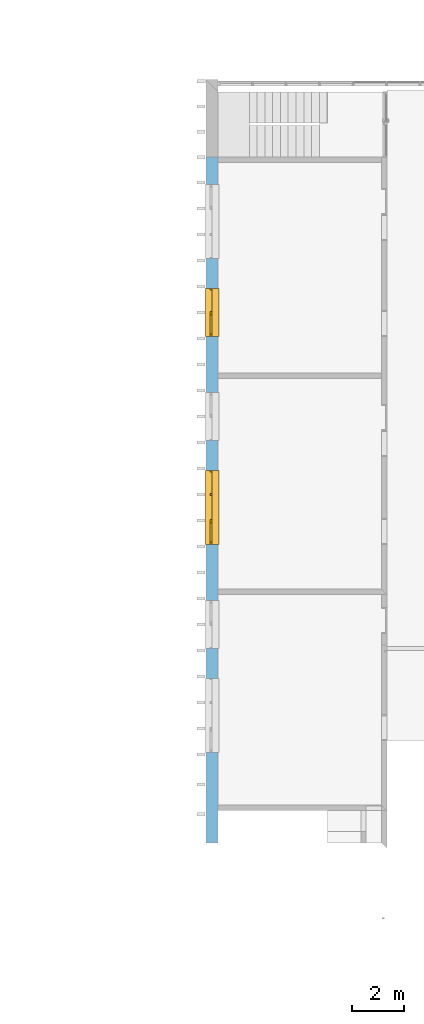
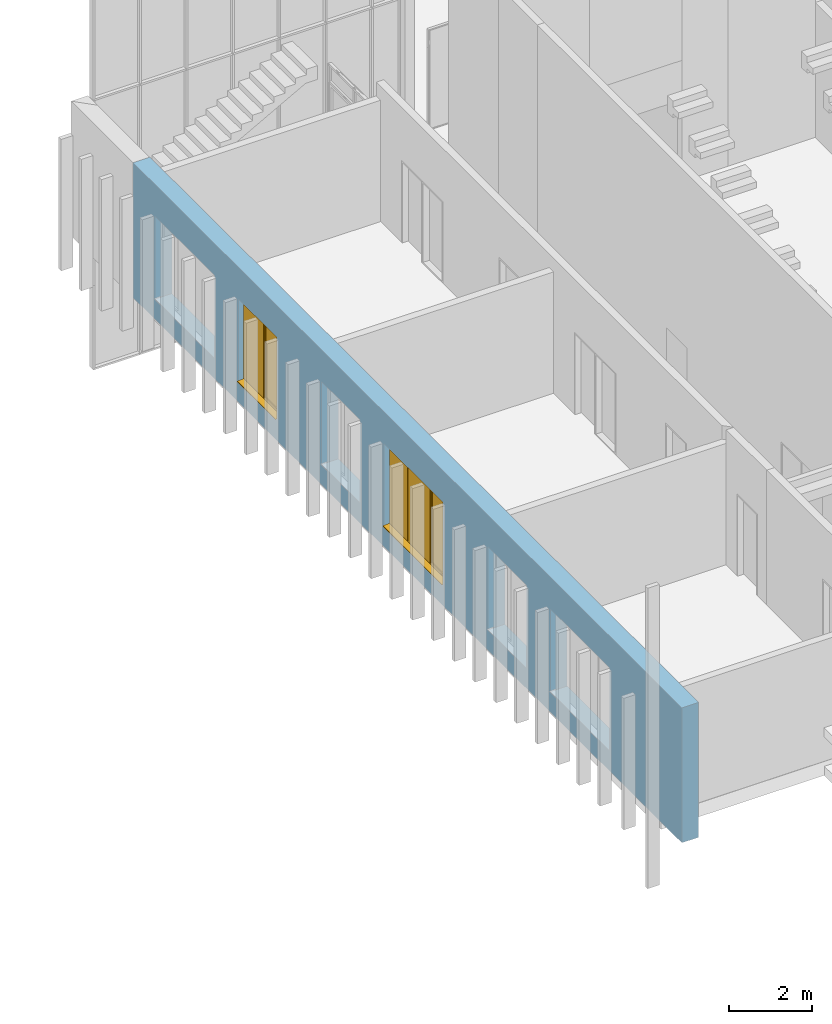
# One storey, part 34 of 62: 2 windows, 6 openings, plus 1 element that does not belong to this part.
"""IFC2X3 building model written with IfcOpenShell, lengths in millimetres."""

from ifc_helpers import new_model, entity, si_unit, converted_unit, derived_unit, money_unit, direction, frame, origin_with_axes, origin_2d_with_axis, place, context, subcontext, project, spatial, polyline, rectangle, outline, extrude, open_shell, faceted_brep, surface_model, material, layer, layer_set, layer_usage, type_object, element, fill, save


model = new_model("IFC2X3")

# Units and contexts
model_context = context("Model", 3, precision=0.01, world=origin_with_axes(), true_north=direction((0.0, 1.0)))
body_context = subcontext(model_context, "Body", "Model", "MODEL_VIEW")
ifc_project = project(units=[si_unit("LENGTHUNIT", "METRE", prefix="MILLI"), si_unit("AREAUNIT", "SQUARE_METRE"), si_unit("VOLUMEUNIT", "CUBIC_METRE"), converted_unit("PLANEANGLEUNIT", "DEGREE", entity("IfcPlaneAngleMeasure", 0.0174532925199), si_unit("PLANEANGLEUNIT", "RADIAN"), dimensions=[0, 0, 0, 0, 0, 0, 0]), si_unit("SOLIDANGLEUNIT", "STERADIAN"), money_unit("EUR"), converted_unit("TIMEUNIT", "Year", entity("IfcTimeMeasure", 31556926.0), si_unit("TIMEUNIT", "SECOND"), dimensions=[0, 0, 1, 0, 0, 0, 0]), si_unit("MASSUNIT", "GRAM", prefix="KILO"), si_unit("THERMODYNAMICTEMPERATUREUNIT", "DEGREE_CELSIUS"), si_unit("LUMINOUSINTENSITYUNIT", "LUMEN"), si_unit("ENERGYUNIT", "JOULE", prefix="MEGA"), derived_unit("THERMALCONDUCTANCEUNIT", [(si_unit("POWERUNIT", "WATT"), 1), (si_unit("LENGTHUNIT", "METRE"), -1), (si_unit("THERMODYNAMICTEMPERATUREUNIT", "KELVIN"), -1)]), derived_unit("SPECIFICHEATCAPACITYUNIT", [(si_unit("ENERGYUNIT", "JOULE"), 1), (si_unit("MASSUNIT", "GRAM", prefix="KILO"), -1), (si_unit("THERMODYNAMICTEMPERATUREUNIT", "KELVIN"), -1)]), derived_unit("MASSDENSITYUNIT", [(si_unit("MASSUNIT", "GRAM", prefix="KILO"), 1), (si_unit("VOLUMEUNIT", "CUBIC_METRE"), -1)])], contexts=[model_context])

# Site, building, storey
site_placement = place(None, origin_with_axes())
site = spatial("IfcSite", under=ifc_project, at=site_placement, Name="Puškini 31, Narva", CompositionType="ELEMENT")
building_placement = place(site_placement, origin_with_axes())
building = spatial("IfcBuilding", under=site, at=building_placement, Name="Narva Riigigümnaasium", CompositionType="ELEMENT")
storey_placement = place(building_placement, frame((0.0, 0.0, 660.0), z_axis=(0.0, 0.0, 1.0), x_axis=(1.0, 0.0, 0.0)))
storey = spatial("IfcBuildingStorey", under=building, at=storey_placement, Name="2.korrus +0.66", CompositionType="ELEMENT", Elevation=660.0)

# Wall, openings, windows
ifc_material_1 = material(Name="fassaadiplaat")
ifc_layer_1 = layer(ifc_material_1, 8.0, ventilated="UNKNOWN")
ifc_material_2 = material(Name="Salto-roovitus")
ifc_layer_2 = layer(ifc_material_2, 50.0, ventilated="UNKNOWN")
ifc_material_3 = material(Name="Salto-PIR soojustus")
ifc_layer_3 = layer(ifc_material_3, 50.0, ventilated="UNKNOWN")
ifc_layer_4 = layer(ifc_material_3, 150.0, ventilated="UNKNOWN")
ifc_material_4 = material(Name="Betoon element")
ifc_layer_5 = layer(ifc_material_4, 200.0, ventilated="UNKNOWN")
ifc_material_5 = material(Name="Salto-siseviimistlus-seinad")
ifc_layer_6 = layer(ifc_material_5, 10.0, ventilated="UNKNOWN")
ifc_layer_set = layer_set([ifc_layer_1, ifc_layer_2, ifc_layer_3, ifc_layer_4, ifc_layer_5, ifc_layer_6], Name="G-VS-01")
ifc_layer_usage = layer_usage(ifc_layer_set, "AXIS2", "NEGATIVE", 458.0)
wall_type = type_object("IfcWallType", Name="G-VS-01 468", PredefinedType="NOTDEFINED")
wall_placement = place(storey_placement, frame((28400.0401775, 194899.999976, 0.0), z_axis=(0.0, 0.0, 1.0), x_axis=(0.0, 1.0, 0.0)))
wall = element("IfcWallStandardCase", 1, at=wall_placement, inside=storey, type_object=wall_type, material=ifc_layer_usage, Name="Välissein", context=body_context, shape_type="SweptSolid", body=[
    extrude(outline(polyline([(2.37781989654e-05, -10.0), (26380.0000226, -10.0), (26380.0000226, 458.0), (2.37781989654e-05, 458.0), (2.37781989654e-05, -10.0)])), origin_with_axes(), (0.0, 0.0, 1.0), 3960.0),
])
opening_1_placement = place(wall_placement, frame((23900.0000267, 0.0, 600.0), z_axis=(0.0, 0.0, 1.0), x_axis=(1.0, 0.0, 0.0)))
element("IfcOpeningElement", 2, at=opening_1_placement, cuts=wall, Name="G-A-38", context=body_context, shape_type="SweptSolid", body=[
    extrude(rectangle(XDim=2849.99999873, YDim=2430.0, at=origin_2d_with_axis()), frame((0.0, 308.0, 1215.0), z_axis=(0.0, 1.0, 0.0), x_axis=(-1.0, 0.0, 0.0)), (0.0, 0.0, -1.0), 786.0),
    extrude(rectangle(XDim=2849.99999873, YDim=2430.0, at=origin_2d_with_axis()), frame((0.0, 308.0, 1215.0), z_axis=(0.0, -1.0, 0.0), x_axis=(-1.0, 0.0, 0.0)), (0.0, 0.0, -1.0), 618.0),
])
opening_2_placement = place(wall_placement, frame((16400.00003, 0.0, 600.0), z_axis=(0.0, 0.0, 1.0), x_axis=(1.0, 0.0, 0.0)))
element("IfcOpeningElement", 3, at=opening_2_placement, cuts=wall, Name="G-A-36", context=body_context, shape_type="SweptSolid", body=[
    extrude(rectangle(XDim=1849.99999918, YDim=2430.0, at=origin_2d_with_axis()), frame((0.0, 308.0, 1215.0), z_axis=(0.0, 1.0, 0.0), x_axis=(-1.0, 0.0, 0.0)), (0.0, 0.0, -1.0), 786.0),
    extrude(rectangle(XDim=1849.99999918, YDim=2430.0, at=origin_2d_with_axis()), frame((0.0, 308.0, 1215.0), z_axis=(0.0, -1.0, 0.0), x_axis=(-1.0, 0.0, 0.0)), (0.0, 0.0, -1.0), 618.0),
])
opening_3_placement = place(wall_placement, frame((8400.005406, 0.0, 600.0), z_axis=(0.0, 0.0, 1.0), x_axis=(1.0, 0.0, 0.0)))
element("IfcOpeningElement", 4, at=opening_3_placement, cuts=wall, Name="G-A-36", context=body_context, shape_type="SweptSolid", body=[
    extrude(rectangle(XDim=1850.0, YDim=2430.0, at=origin_2d_with_axis()), frame((0.0, 308.0, 1215.0), z_axis=(0.0, 1.0, 0.0), x_axis=(-1.0, 0.0, 0.0)), (0.0, 0.0, -1.0), 786.0),
    extrude(rectangle(XDim=1850.0, YDim=2430.0, at=origin_2d_with_axis()), frame((0.0, 308.0, 1215.0), z_axis=(0.0, -1.0, 0.0), x_axis=(-1.0, 0.0, 0.0)), (0.0, 0.0, -1.0), 618.0),
])
opening_4_placement = place(wall_placement, frame((20400.0000282, 0.0, 600.0), z_axis=(0.0, 0.0, 1.0), x_axis=(1.0, 0.0, 0.0)))
opening_4 = element("IfcOpeningElement", 5, at=opening_4_placement, cuts=wall, Name="G-A-36", context=body_context, shape_type="SweptSolid", body=[
    extrude(rectangle(XDim=1849.99999918, YDim=2430.0, at=origin_2d_with_axis()), frame((0.0, 308.0, 1215.0), z_axis=(0.0, -1.0, 0.0), x_axis=(1.0, 0.0, 0.0)), (0.0, 0.0, 1.0), 786.0),
    extrude(rectangle(XDim=1849.99999918, YDim=2430.0, at=origin_2d_with_axis()), frame((0.0, 308.0, 1215.0), z_axis=(0.0, 1.0, 0.0), x_axis=(1.0, 0.0, 0.0)), (0.0, 0.0, 1.0), 618.0),
])
opening_5_placement = place(wall_placement, frame((12900.0000316, 0.0, 600.0), z_axis=(0.0, 0.0, 1.0), x_axis=(1.0, 0.0, 0.0)))
opening_5 = element("IfcOpeningElement", 6, at=opening_5_placement, cuts=wall, Name="G-A-38", context=body_context, shape_type="SweptSolid", body=[
    extrude(rectangle(XDim=2849.99999873, YDim=2430.0, at=origin_2d_with_axis()), frame((0.0, 308.0, 1215.0), z_axis=(0.0, -1.0, 0.0), x_axis=(1.0, 0.0, 0.0)), (0.0, 0.0, 1.0), 786.0),
    extrude(rectangle(XDim=2849.99999873, YDim=2430.0, at=origin_2d_with_axis()), frame((0.0, 308.0, 1215.0), z_axis=(0.0, 1.0, 0.0), x_axis=(1.0, 0.0, 0.0)), (0.0, 0.0, 1.0), 618.0),
])
opening_6_placement = place(wall_placement, frame((4900.00003512, 0.0, 600.0), z_axis=(0.0, 0.0, 1.0), x_axis=(1.0, 0.0, 0.0)))
element("IfcOpeningElement", 7, at=opening_6_placement, cuts=wall, Name="G-A-38", context=body_context, shape_type="SweptSolid", body=[
    extrude(rectangle(XDim=2849.99999873, YDim=2430.0, at=origin_2d_with_axis()), frame((0.0, 308.0, 1215.0), z_axis=(0.0, -1.0, 0.0), x_axis=(1.0, 0.0, 0.0)), (0.0, 0.0, 1.0), 786.0),
    extrude(rectangle(XDim=2849.99999873, YDim=2430.0, at=origin_2d_with_axis()), frame((0.0, 308.0, 1215.0), z_axis=(0.0, 1.0, 0.0), x_axis=(1.0, 0.0, 0.0)), (0.0, 0.0, 1.0), 618.0),
])
window_style_1 = type_object("IfcWindowStyle", Name="Horizontal Multi-Sash Window 23", ConstructionType="NOTDEFINED", OperationType="DOUBLE_PANEL_VERTICAL", ParameterTakesPrecedence=False, Sizeable=False)
window_1_placement = place(opening_4_placement, frame((924.999999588, 0.0, 0.0), z_axis=(0.0, 0.0, 1.0), x_axis=(-1.0, 0.0, 0.0)))
window_1 = element("IfcWindow", 8, at=window_1_placement, inside=storey, type_object=window_style_1, Name="G-A-36", ObjectType="WINDOW", OverallHeight=2430.0, OverallWidth=1850.0, context=body_context, shape_type="SurfaceModel", body=[
    surface_model("IfcShellBasedSurfaceModel", [(1849.99999918, -309.0, 50.0), (0.0, -309.0, 50.0), (0.0, -309.0, 40.0), (1849.99999918, -309.0, 40.0), (0.0, -488.0, 28.0), (1849.99999918, -488.0, 28.0), (0.0, -488.0, 8.0), (1849.99999918, -488.0, 8.0), (0.0, -478.0, 18.0), (1849.99999918, -478.0, 18.0)], [open_shell([[[0, 1, 2, 3]], [[3, 2, 4, 5]], [[5, 4, 6, 7]], [[7, 6, 8, 9]]])]),
    faceted_brep([(0.0, -233.0, 0.0), (0.0, -233.0, 25.0), (0.0, 10.0, 25.0), (0.0, 10.0, 0.0), (1849.99999918, -233.0, 0.0), (1849.99999918, -233.0, 25.0), (1849.99999918, 10.0, 25.0), (1849.99999918, 40.0, 25.0), (0.0, 40.0, 25.0), (0.0, 40.0, 0.0), (1849.99999918, 40.0, 0.0), (1849.99999918, 10.0, 0.0)], [[[0, 1, 2, 3]], [[4, 5, 1, 0]], [[1, 5, 6, 7, 8, 2]], [[3, 2, 8, 9]], [[0, 3, 9, 10, 11, 4]], [[11, 6, 5, 4]], [[10, 7, 6, 11]], [[9, 8, 7, 10]]]),
    faceted_brep([(1809.99999918, -233.0, 2380.0), (1809.99999918, -303.0, 2380.0), (1799.99999918, -303.0, 2380.0), (1799.99999918, -308.0, 2380.0), (1849.99999918, -308.0, 2380.0), (1849.99999918, -233.0, 2380.0), (1809.99999918, -233.0, 50.0), (1809.99999918, -303.0, 50.0), (1799.99999918, -303.0, 50.0), (1799.99999918, -308.0, 50.0), (1849.99999918, -308.0, 50.0), (1849.99999918, -233.0, 50.0)], [[[0, 1, 2, 3, 4, 5]], [[1, 0, 6, 7]], [[8, 2, 1, 7]], [[2, 8, 9, 3]], [[4, 3, 9, 10]], [[5, 4, 10, 11]], [[6, 0, 5, 11]], [[7, 6, 11, 10, 9, 8]]]),
    faceted_brep([(1809.99999918, -233.0, 2380.0), (1809.99999918, -233.0, 2390.0), (952.499999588, -233.0, 2390.0), (952.499999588, -233.0, 2380.0), (887.499999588, -233.0, 2380.0), (50.0, -233.0, 2380.0), (0.0, -233.0, 2380.0), (0.0, -233.0, 2430.0), (1849.99999918, -233.0, 2430.0), (1849.99999918, -233.0, 2380.0), (1809.99999918, -303.0, 2380.0), (1809.99999918, -303.0, 2390.0), (952.499999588, -303.0, 2390.0), (952.499999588, -303.0, 2380.0), (962.499999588, -303.0, 2380.0), (962.499999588, -308.0, 2380.0), (887.499999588, -308.0, 2380.0), (50.0, -308.0, 2380.0), (0.0, -308.0, 2380.0), (0.0, -308.0, 2430.0), (1849.99999918, -308.0, 2430.0), (1849.99999918, -308.0, 2380.0), (1799.99999918, -308.0, 2380.0), (1799.99999918, -303.0, 2380.0)], [[[0, 1, 2, 3, 4, 5, 6, 7, 8, 9]], [[1, 0, 10, 11]], [[2, 1, 11, 12]], [[3, 2, 12, 13]], [[13, 14, 15, 16, 4, 3]], [[4, 16, 17, 5]], [[5, 17, 18, 6]], [[6, 18, 19, 7]], [[7, 19, 20, 8]], [[8, 20, 21, 9]], [[10, 0, 9, 21, 22, 23]], [[14, 13, 12, 11, 10, 23]], [[14, 23, 22, 15]], [[18, 17, 16, 15, 22, 21, 20, 19]]]),
    faceted_brep([(962.499999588, -303.0, 50.0), (952.499999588, -303.0, 50.0), (952.499999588, -233.0, 50.0), (887.499999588, -233.0, 50.0), (887.499999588, -308.0, 50.0), (962.499999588, -308.0, 50.0), (1799.99999918, -303.0, 50.0), (1809.99999918, -303.0, 50.0), (1809.99999918, -303.0, 40.0), (952.499999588, -303.0, 40.0), (952.499999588, -233.0, 40.0), (1809.99999918, -233.0, 40.0), (1809.99999918, -233.0, 50.0), (1849.99999918, -233.0, 50.0), (1849.99999918, -233.0, 0.0), (0.0, -233.0, 0.0), (0.0, -233.0, 50.0), (50.0, -233.0, 50.0), (50.0, -308.0, 50.0), (0.0, -308.0, 50.0), (0.0, -308.0, 0.0), (1849.99999918, -308.0, 0.0), (1849.99999918, -308.0, 50.0), (1799.99999918, -308.0, 50.0)], [[[0, 1, 2, 3, 4, 5]], [[1, 0, 6, 7, 8, 9]], [[10, 2, 1, 9]], [[11, 12, 13, 14, 15, 16, 17, 3, 2, 10]], [[17, 18, 4, 3]], [[5, 4, 18, 19, 20, 21, 22, 23]], [[6, 0, 5, 23]], [[7, 6, 23, 22, 13, 12]], [[7, 12, 11, 8]], [[11, 10, 9, 8]], [[13, 22, 21, 14]], [[14, 21, 20, 15]], [[15, 20, 19, 16]], [[16, 19, 18, 17]]]),
    faceted_brep([(962.499999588, -303.0, 2380.0), (952.499999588, -303.0, 2380.0), (952.499999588, -233.0, 2380.0), (887.499999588, -233.0, 2380.0), (887.499999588, -308.0, 2380.0), (962.499999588, -308.0, 2380.0), (962.499999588, -303.0, 50.0), (952.499999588, -303.0, 50.0), (952.499999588, -233.0, 50.0), (887.499999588, -233.0, 50.0), (887.499999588, -308.0, 50.0), (962.499999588, -308.0, 50.0)], [[[0, 1, 2, 3, 4, 5]], [[1, 0, 6, 7]], [[8, 2, 1, 7]], [[2, 8, 9, 3]], [[9, 10, 4, 3]], [[4, 10, 11, 5]], [[6, 0, 5, 11]], [[7, 6, 11, 10, 9, 8]]]),
    faceted_brep([(50.0, -308.0, 50.0), (0.0, -308.0, 50.0), (0.0, -233.0, 50.0), (50.0, -233.0, 50.0), (50.0, -308.0, 2380.0), (0.0, -308.0, 2380.0), (0.0, -233.0, 2380.0), (50.0, -233.0, 2380.0)], [[[0, 1, 2, 3]], [[0, 4, 5, 1]], [[1, 5, 6, 2]], [[3, 2, 6, 7]], [[4, 0, 3, 7]], [[5, 4, 7, 6]]]),
    faceted_brep([(1749.99999918, -303.0, 2330.0), (1809.99999918, -303.0, 2330.0), (1809.99999918, -218.0, 2330.0), (1749.99999918, -218.0, 2330.0), (1749.99999918, -303.0, 100.0), (1809.99999918, -303.0, 100.0), (1809.99999918, -218.0, 100.0), (1749.99999918, -218.0, 100.0)], [[[0, 1, 2, 3]], [[0, 4, 5, 1]], [[1, 5, 6, 2]], [[3, 2, 6, 7]], [[4, 0, 3, 7]], [[5, 4, 7, 6]]]),
    faceted_brep([(1012.49999959, -303.0, 100.0), (952.499999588, -303.0, 100.0), (952.499999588, -218.0, 100.0), (1012.49999959, -218.0, 100.0), (1012.49999959, -303.0, 2330.0), (952.499999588, -303.0, 2330.0), (952.499999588, -218.0, 2330.0), (1012.49999959, -218.0, 2330.0)], [[[0, 1, 2, 3]], [[0, 4, 5, 1]], [[1, 5, 6, 2]], [[3, 2, 6, 7]], [[4, 0, 3, 7]], [[5, 4, 7, 6]]]),
    faceted_brep([(952.499999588, -303.0, 40.0), (952.499999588, -303.0, 100.0), (952.499999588, -218.0, 100.0), (952.499999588, -218.0, 40.0), (1809.99999918, -303.0, 40.0), (1809.99999918, -303.0, 100.0), (1749.99999918, -303.0, 100.0), (1012.49999959, -303.0, 100.0), (1012.49999959, -218.0, 100.0), (1749.99999918, -218.0, 100.0), (1809.99999918, -218.0, 100.0), (1809.99999918, -218.0, 40.0)], [[[0, 1, 2, 3]], [[0, 4, 5, 6, 7, 1]], [[1, 7, 8, 2]], [[3, 2, 8, 9, 10, 11]], [[4, 0, 3, 11]], [[5, 4, 11, 10]], [[6, 5, 10, 9]], [[7, 6, 9, 8]]]),
    faceted_brep([(1809.99999918, -303.0, 2390.0), (1809.99999918, -303.0, 2330.0), (1809.99999918, -218.0, 2330.0), (1809.99999918, -218.0, 2390.0), (952.499999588, -303.0, 2390.0), (952.499999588, -303.0, 2330.0), (1012.49999959, -303.0, 2330.0), (1749.99999918, -303.0, 2330.0), (1749.99999918, -218.0, 2330.0), (1012.49999959, -218.0, 2330.0), (952.499999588, -218.0, 2330.0), (952.499999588, -218.0, 2390.0)], [[[0, 1, 2, 3]], [[0, 4, 5, 6, 7, 1]], [[1, 7, 8, 2]], [[3, 2, 8, 9, 10, 11]], [[4, 0, 3, 11]], [[5, 4, 11, 10]], [[6, 5, 10, 9]], [[7, 6, 9, 8]]]),
    surface_model("IfcShellBasedSurfaceModel", [(1749.99999918, -270.5, 100.0), (1749.99999918, -270.5, 2330.0), (1012.49999959, -270.5, 2330.0), (1012.49999959, -270.5, 100.0)], [open_shell([[[0, 1, 2, 3]]])]),
    surface_model("IfcShellBasedSurfaceModel", [(1749.99999918, -250.5, 100.0), (1012.49999959, -250.5, 100.0), (1012.49999959, -250.5, 2330.0), (1749.99999918, -250.5, 2330.0)], [open_shell([[[0, 1, 2, 3]]])]),
    surface_model("IfcShellBasedSurfaceModel", [(887.499999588, -313.0, 50.0), (887.499999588, -313.0, 2380.0), (50.0, -313.0, 2380.0), (50.0, -313.0, 50.0)], [open_shell([[[0, 1, 2, 3]]])]),
    surface_model("IfcShellBasedSurfaceModel", [(887.499999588, -293.0, 50.0), (50.0, -293.0, 50.0), (50.0, -293.0, 2380.0), (887.499999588, -293.0, 2380.0)], [open_shell([[[0, 1, 2, 3]]])]),
])
fill(opening_4, window_1)
window_style_2 = type_object("IfcWindowStyle", Name="Horizontal Multi-Sash Window 23", ConstructionType="NOTDEFINED", OperationType="TRIPLE_PANEL_VERTICAL", ParameterTakesPrecedence=False, Sizeable=False)
window_2_placement = place(opening_5_placement, frame((1424.99999937, 0.0, 0.0), z_axis=(0.0, 0.0, 1.0), x_axis=(-1.0, 0.0, 0.0)))
window_2 = element("IfcWindow", 9, at=window_2_placement, inside=storey, type_object=window_style_2, Name="G-A-38", ObjectType="WINDOW", OverallHeight=2430.0, OverallWidth=2850.0, context=body_context, shape_type="SurfaceModel", body=[
    surface_model("IfcShellBasedSurfaceModel", [(2849.99999873, -309.0, 50.0), (0.0, -309.0, 50.0), (0.0, -309.0, 40.0), (2849.99999873, -309.0, 40.0), (0.0, -488.0, 28.0), (2849.99999873, -488.0, 28.0), (0.0, -488.0, 8.0), (2849.99999873, -488.0, 8.0), (0.0, -478.0, 18.0), (2849.99999873, -478.0, 18.0)], [open_shell([[[0, 1, 2, 3]], [[3, 2, 4, 5]], [[5, 4, 6, 7]], [[7, 6, 8, 9]]])]),
    faceted_brep([(0.0, -233.0, 0.0), (0.0, -233.0, 25.0), (0.0, 10.0, 25.0), (0.0, 10.0, 0.0), (2849.99999873, -233.0, 0.0), (2849.99999873, -233.0, 25.0), (2849.99999873, 10.0, 25.0), (2849.99999873, 40.0, 25.0), (0.0, 40.0, 25.0), (0.0, 40.0, 0.0), (2849.99999873, 40.0, 0.0), (2849.99999873, 10.0, 0.0)], [[[0, 1, 2, 3]], [[4, 5, 1, 0]], [[1, 5, 6, 7, 8, 2]], [[3, 2, 8, 9]], [[0, 3, 9, 10, 11, 4]], [[11, 6, 5, 4]], [[10, 7, 6, 11]], [[9, 8, 7, 10]]]),
    faceted_brep([(2809.99999873, -233.0, 2380.0), (2809.99999873, -303.0, 2380.0), (2799.99999873, -303.0, 2380.0), (2799.99999873, -308.0, 2380.0), (2849.99999873, -308.0, 2380.0), (2849.99999873, -233.0, 2380.0), (2809.99999873, -233.0, 50.0), (2809.99999873, -303.0, 50.0), (2799.99999873, -303.0, 50.0), (2799.99999873, -308.0, 50.0), (2849.99999873, -308.0, 50.0), (2849.99999873, -233.0, 50.0)], [[[0, 1, 2, 3, 4, 5]], [[1, 0, 6, 7]], [[8, 2, 1, 7]], [[2, 8, 9, 3]], [[4, 3, 9, 10]], [[5, 4, 10, 11]], [[6, 0, 5, 11]], [[7, 6, 11, 10, 9, 8]]]),
    faceted_brep([(2809.99999873, -233.0, 2380.0), (2809.99999873, -233.0, 2390.0), (1952.48985197, -233.0, 2390.0), (1952.48985197, -233.0, 2380.0), (1887.48985197, -233.0, 2380.0), (962.489852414, -233.0, 2380.0), (887.489852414, -233.0, 2380.0), (50.0, -233.0, 2380.0), (0.0, -233.0, 2380.0), (0.0, -233.0, 2430.0), (2849.99999873, -233.0, 2430.0), (2849.99999873, -233.0, 2380.0), (2809.99999873, -303.0, 2380.0), (2809.99999873, -303.0, 2390.0), (1952.48985197, -303.0, 2390.0), (1952.48985197, -303.0, 2380.0), (1962.48985197, -303.0, 2380.0), (1962.48985197, -308.0, 2380.0), (1887.48985197, -308.0, 2380.0), (962.489852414, -308.0, 2380.0), (887.489852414, -308.0, 2380.0), (50.0, -308.0, 2380.0), (0.0, -308.0, 2380.0), (0.0, -308.0, 2430.0), (2849.99999873, -308.0, 2430.0), (2849.99999873, -308.0, 2380.0), (2799.99999873, -308.0, 2380.0), (2799.99999873, -303.0, 2380.0)], [[[0, 1, 2, 3, 4, 5, 6, 7, 8, 9, 10, 11]], [[1, 0, 12, 13]], [[2, 1, 13, 14]], [[3, 2, 14, 15]], [[15, 16, 17, 18, 4, 3]], [[4, 18, 19, 5]], [[5, 19, 20, 6]], [[6, 20, 21, 7]], [[7, 21, 22, 8]], [[8, 22, 23, 9]], [[9, 23, 24, 10]], [[10, 24, 25, 11]], [[12, 0, 11, 25, 26, 27]], [[16, 15, 14, 13, 12, 27]], [[16, 27, 26, 17]], [[22, 21, 20, 19, 18, 17, 26, 25, 24, 23]]]),
    faceted_brep([(1962.48985197, -303.0, 50.0), (1952.48985197, -303.0, 50.0), (1952.48985197, -233.0, 50.0), (1887.48985197, -233.0, 50.0), (1887.48985197, -308.0, 50.0), (1962.48985197, -308.0, 50.0), (2799.99999873, -303.0, 50.0), (2809.99999873, -303.0, 50.0), (2809.99999873, -303.0, 40.0), (1952.48985197, -303.0, 40.0), (1952.48985197, -233.0, 40.0), (2809.99999873, -233.0, 40.0), (2809.99999873, -233.0, 50.0), (2849.99999873, -233.0, 50.0), (2849.99999873, -233.0, 0.0), (0.0, -233.0, 0.0), (0.0, -233.0, 50.0), (50.0, -233.0, 50.0), (887.489852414, -233.0, 50.0), (962.489852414, -233.0, 50.0), (962.489852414, -308.0, 50.0), (887.489852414, -308.0, 50.0), (50.0, -308.0, 50.0), (0.0, -308.0, 50.0), (0.0, -308.0, 0.0), (2849.99999873, -308.0, 0.0), (2849.99999873, -308.0, 50.0), (2799.99999873, -308.0, 50.0)], [[[0, 1, 2, 3, 4, 5]], [[1, 0, 6, 7, 8, 9]], [[10, 2, 1, 9]], [[11, 12, 13, 14, 15, 16, 17, 18, 19, 3, 2, 10]], [[19, 20, 4, 3]], [[20, 21, 22, 23, 24, 25, 26, 27, 5, 4]], [[6, 0, 5, 27]], [[7, 6, 27, 26, 13, 12]], [[7, 12, 11, 8]], [[11, 10, 9, 8]], [[13, 26, 25, 14]], [[14, 25, 24, 15]], [[15, 24, 23, 16]], [[16, 23, 22, 17]], [[17, 22, 21, 18]], [[18, 21, 20, 19]]]),
    faceted_brep([(1962.48985197, -303.0, 2380.0), (1952.48985197, -303.0, 2380.0), (1952.48985197, -233.0, 2380.0), (1887.48985197, -233.0, 2380.0), (1887.48985197, -308.0, 2380.0), (1962.48985197, -308.0, 2380.0), (1962.48985197, -303.0, 50.0), (1952.48985197, -303.0, 50.0), (1952.48985197, -233.0, 50.0), (1887.48985197, -233.0, 50.0), (1887.48985197, -308.0, 50.0), (1962.48985197, -308.0, 50.0)], [[[0, 1, 2, 3, 4, 5]], [[1, 0, 6, 7]], [[8, 2, 1, 7]], [[2, 8, 9, 3]], [[9, 10, 4, 3]], [[4, 10, 11, 5]], [[6, 0, 5, 11]], [[7, 6, 11, 10, 9, 8]]]),
    faceted_brep([(50.0, -308.0, 50.0), (0.0, -308.0, 50.0), (0.0, -233.0, 50.0), (50.0, -233.0, 50.0), (50.0, -308.0, 2380.0), (0.0, -308.0, 2380.0), (0.0, -233.0, 2380.0), (50.0, -233.0, 2380.0)], [[[0, 1, 2, 3]], [[0, 4, 5, 1]], [[1, 5, 6, 2]], [[3, 2, 6, 7]], [[4, 0, 3, 7]], [[5, 4, 7, 6]]]),
    faceted_brep([(887.489852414, -308.0, 50.0), (887.489852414, -308.0, 2380.0), (887.489852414, -233.0, 2380.0), (887.489852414, -233.0, 50.0), (962.489852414, -308.0, 50.0), (962.489852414, -308.0, 2380.0), (962.489852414, -233.0, 2380.0), (962.489852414, -233.0, 50.0)], [[[0, 1, 2, 3]], [[0, 4, 5, 1]], [[1, 5, 6, 2]], [[3, 2, 6, 7]], [[4, 0, 3, 7]], [[5, 4, 7, 6]]]),
    faceted_brep([(2749.99999873, -303.0, 2330.0), (2809.99999873, -303.0, 2330.0), (2809.99999873, -218.0, 2330.0), (2749.99999873, -218.0, 2330.0), (2749.99999873, -303.0, 100.0), (2809.99999873, -303.0, 100.0), (2809.99999873, -218.0, 100.0), (2749.99999873, -218.0, 100.0)], [[[0, 1, 2, 3]], [[0, 4, 5, 1]], [[1, 5, 6, 2]], [[3, 2, 6, 7]], [[4, 0, 3, 7]], [[5, 4, 7, 6]]]),
    faceted_brep([(2012.48985197, -303.0, 100.0), (1952.48985197, -303.0, 100.0), (1952.48985197, -218.0, 100.0), (2012.48985197, -218.0, 100.0), (2012.48985197, -303.0, 2330.0), (1952.48985197, -303.0, 2330.0), (1952.48985197, -218.0, 2330.0), (2012.48985197, -218.0, 2330.0)], [[[0, 1, 2, 3]], [[0, 4, 5, 1]], [[1, 5, 6, 2]], [[3, 2, 6, 7]], [[4, 0, 3, 7]], [[5, 4, 7, 6]]]),
    faceted_brep([(1952.48985197, -303.0, 40.0), (1952.48985197, -303.0, 100.0), (1952.48985197, -218.0, 100.0), (1952.48985197, -218.0, 40.0), (2809.99999873, -303.0, 40.0), (2809.99999873, -303.0, 100.0), (2749.99999873, -303.0, 100.0), (2012.48985197, -303.0, 100.0), (2012.48985197, -218.0, 100.0), (2749.99999873, -218.0, 100.0), (2809.99999873, -218.0, 100.0), (2809.99999873, -218.0, 40.0)], [[[0, 1, 2, 3]], [[0, 4, 5, 6, 7, 1]], [[1, 7, 8, 2]], [[3, 2, 8, 9, 10, 11]], [[4, 0, 3, 11]], [[5, 4, 11, 10]], [[6, 5, 10, 9]], [[7, 6, 9, 8]]]),
    faceted_brep([(2809.99999873, -303.0, 2390.0), (2809.99999873, -303.0, 2330.0), (2809.99999873, -218.0, 2330.0), (2809.99999873, -218.0, 2390.0), (1952.48985197, -303.0, 2390.0), (1952.48985197, -303.0, 2330.0), (2012.48985197, -303.0, 2330.0), (2749.99999873, -303.0, 2330.0), (2749.99999873, -218.0, 2330.0), (2012.48985197, -218.0, 2330.0), (1952.48985197, -218.0, 2330.0), (1952.48985197, -218.0, 2390.0)], [[[0, 1, 2, 3]], [[0, 4, 5, 6, 7, 1]], [[1, 7, 8, 2]], [[3, 2, 8, 9, 10, 11]], [[4, 0, 3, 11]], [[5, 4, 11, 10]], [[6, 5, 10, 9]], [[7, 6, 9, 8]]]),
    surface_model("IfcShellBasedSurfaceModel", [(2749.99999873, -270.5, 100.0), (2749.99999873, -270.5, 2330.0), (2012.48985197, -270.5, 2330.0), (2012.48985197, -270.5, 100.0)], [open_shell([[[0, 1, 2, 3]]])]),
    surface_model("IfcShellBasedSurfaceModel", [(2749.99999873, -250.5, 100.0), (2012.48985197, -250.5, 100.0), (2012.48985197, -250.5, 2330.0), (2749.99999873, -250.5, 2330.0)], [open_shell([[[0, 1, 2, 3]]])]),
    surface_model("IfcShellBasedSurfaceModel", [(1887.48985197, -313.0, 50.0), (1887.48985197, -313.0, 2380.0), (962.489852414, -313.0, 2380.0), (962.489852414, -313.0, 50.0)], [open_shell([[[0, 1, 2, 3]]])]),
    surface_model("IfcShellBasedSurfaceModel", [(1887.48985197, -293.0, 50.0), (962.489852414, -293.0, 50.0), (962.489852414, -293.0, 2380.0), (1887.48985197, -293.0, 2380.0)], [open_shell([[[0, 1, 2, 3]]])]),
    surface_model("IfcShellBasedSurfaceModel", [(887.489852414, -313.0, 50.0), (887.489852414, -313.0, 2380.0), (50.0, -313.0, 2380.0), (50.0, -313.0, 50.0)], [open_shell([[[0, 1, 2, 3]]])]),
    surface_model("IfcShellBasedSurfaceModel", [(887.489852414, -293.0, 50.0), (50.0, -293.0, 50.0), (50.0, -293.0, 2380.0), (887.489852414, -293.0, 2380.0)], [open_shell([[[0, 1, 2, 3]]])]),
])
fill(opening_5, window_2)

save(model, "model.ifc")
